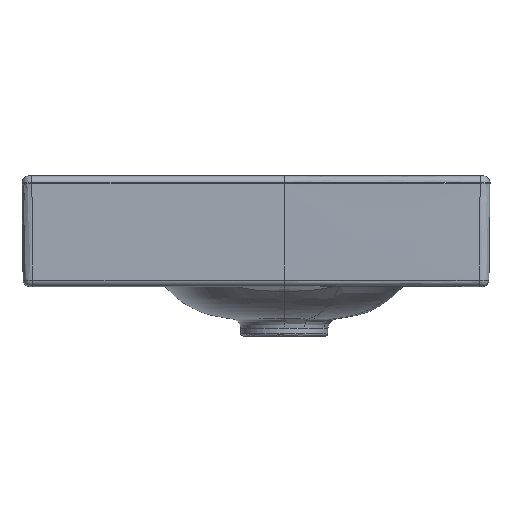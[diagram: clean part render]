
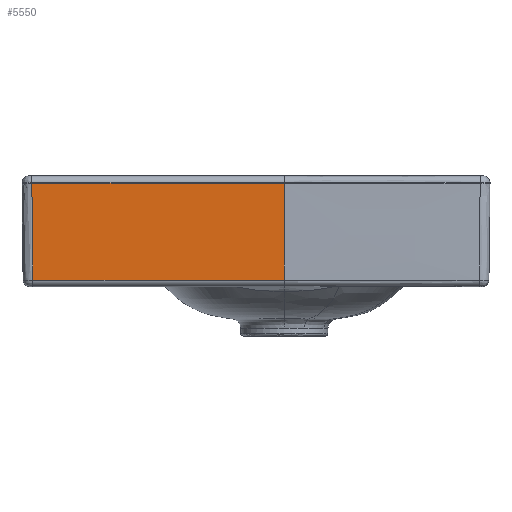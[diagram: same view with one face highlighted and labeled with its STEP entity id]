
A CAD part, front view. The second image highlights one B-rep face of the part: STEP entity #5550.
In plain terms, the highlighted free-form (B-spline) face has degree [3, 3] with [7, 7] control points.
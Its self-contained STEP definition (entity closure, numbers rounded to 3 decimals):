
#888=FACE_OUTER_BOUND('',#1234,.T.);
#1234=EDGE_LOOP('',(#4515,#4516,#4517,#4518,#4519));
#1471=LINE('',#41017,#1705);
#1472=LINE('',#41422,#1706);
#1705=VECTOR('',#6909,10.);
#1706=VECTOR('',#6912,10.);
#2000=B_SPLINE_CURVE_WITH_KNOTS('',3,(#39942,#39943,#39944,#39945),
 .UNSPECIFIED.,.F.,.F.,(4,4),(0.,1.),.UNSPECIFIED.);
#2007=B_SPLINE_CURVE_WITH_KNOTS('',3,(#41227,#41228,#41229,#41230,#41231,
#41232,#41233,#41234,#41235,#41236,#41237,#41238,#41239,#41240,#41241,#41242,
#41243,#41244,#41245,#41246,#41247,#41248,#41249,#41250,#41251,#41252,#41253,
#41254,#41255,#41256),.UNSPECIFIED.,.F.,.F.,(4,3,2,2,1,3,2,2,2,3,2,2,2,
4),(0.,0.198,0.352,0.409,
0.465,0.465,0.5,0.62,0.683,
0.733,0.851,0.866,0.954,
1.),.UNSPECIFIED.);
#2010=B_SPLINE_CURVE_WITH_KNOTS('',3,(#41415,#41416,#41417,#41418,#41419,
#41420,#41421),.UNSPECIFIED.,.F.,.F.,(4,1,1,1,4),(0.,0.198,
0.465,0.733,1.),.UNSPECIFIED.);
#2427=VERTEX_POINT('',#39888);
#2429=VERTEX_POINT('',#39941);
#2439=VERTEX_POINT('',#41016);
#2441=VERTEX_POINT('',#41226);
#2443=VERTEX_POINT('',#41414);
#3148=EDGE_CURVE('',#2427,#2429,#2000,.T.);
#3166=EDGE_CURVE('',#2429,#2439,#1471,.T.);
#3169=EDGE_CURVE('',#2439,#2441,#2007,.T.);
#3172=EDGE_CURVE('',#2427,#2443,#2010,.T.);
#3173=EDGE_CURVE('',#2443,#2441,#1472,.T.);
#4515=ORIENTED_EDGE('',*,*,#3166,.F.);
#4516=ORIENTED_EDGE('',*,*,#3148,.F.);
#4517=ORIENTED_EDGE('',*,*,#3172,.T.);
#4518=ORIENTED_EDGE('',*,*,#3173,.T.);
#4519=ORIENTED_EDGE('',*,*,#3169,.F.);
#4921=B_SPLINE_SURFACE_WITH_KNOTS('',3,3,((#41365,#41366,#41367,#41368,
#41369,#41370,#41371),(#41372,#41373,#41374,#41375,#41376,#41377,#41378),
(#41379,#41380,#41381,#41382,#41383,#41384,#41385),(#41386,#41387,#41388,
#41389,#41390,#41391,#41392),(#41393,#41394,#41395,#41396,#41397,#41398,
#41399),(#41400,#41401,#41402,#41403,#41404,#41405,#41406),(#41407,#41408,
#41409,#41410,#41411,#41412,#41413)),.UNSPECIFIED.,.F.,.F.,.F.,(4,1,1,1,
4),(4,3,4),(0.,0.267,0.535,0.802,1.),
(0.,0.01,1.),.UNSPECIFIED.);
#5550=ADVANCED_FACE('',(#888),#4921,.T.);
#6909=DIRECTION('',(-1.,0.,0.));
#6912=DIRECTION('',(-1.,0.,0.));
#39888=CARTESIAN_POINT('',(0.,-279.093,765.437));
#39941=CARTESIAN_POINT('',(-204.175,-279.093,765.437));
#39942=CARTESIAN_POINT('Ctrl Pts',(0.,-279.093,
765.437));
#39943=CARTESIAN_POINT('Ctrl Pts',(-68.058,-279.093,765.437));
#39944=CARTESIAN_POINT('Ctrl Pts',(-136.116,-279.093,765.437));
#39945=CARTESIAN_POINT('Ctrl Pts',(-204.175,-279.093,765.437));
#41016=CARTESIAN_POINT('',(-204.175,-279.093,765.437));
#41017=CARTESIAN_POINT('',(-204.175,-279.093,765.437));
#41226=CARTESIAN_POINT('',(-205.,-279.843,844.001));
#41227=CARTESIAN_POINT('Ctrl Pts',(-204.175,-279.093,
765.437));
#41228=CARTESIAN_POINT('Ctrl Pts',(-204.294,-279.181,
770.626));
#41229=CARTESIAN_POINT('Ctrl Pts',(-204.4,-279.263,775.814));
#41230=CARTESIAN_POINT('Ctrl Pts',(-204.492,-279.334,781.002));
#41231=CARTESIAN_POINT('Ctrl Pts',(-204.564,-279.389,
785.034));
#41232=CARTESIAN_POINT('Ctrl Pts',(-204.629,-279.438,789.067));
#41233=CARTESIAN_POINT('Ctrl Pts',(-204.706,-279.489,
794.592));
#41234=CARTESIAN_POINT('Ctrl Pts',(-204.726,-279.502,
796.085));
#41235=CARTESIAN_POINT('Ctrl Pts',(-204.764,-279.523,
799.042));
#41236=CARTESIAN_POINT('Ctrl Pts',(-204.782,-279.532,
800.516));
#41237=CARTESIAN_POINT('Ctrl Pts',(-204.798,-279.538,801.99));
#41238=CARTESIAN_POINT('Ctrl Pts',(-204.798,-279.539,
801.999));
#41239=CARTESIAN_POINT('Ctrl Pts',(-204.809,-279.543,
802.904));
#41240=CARTESIAN_POINT('Ctrl Pts',(-204.818,-279.546,
803.81));
#41241=CARTESIAN_POINT('Ctrl Pts',(-204.861,-279.559,
807.864));
#41242=CARTESIAN_POINT('Ctrl Pts',(-204.889,-279.563,
811.012));
#41243=CARTESIAN_POINT('Ctrl Pts',(-204.925,-279.568,
815.798));
#41244=CARTESIAN_POINT('Ctrl Pts',(-204.936,-279.57,
817.436));
#41245=CARTESIAN_POINT('Ctrl Pts',(-204.954,-279.575,
820.386));
#41246=CARTESIAN_POINT('Ctrl Pts',(-204.961,-279.578,
821.698));
#41247=CARTESIAN_POINT('Ctrl Pts',(-204.967,-279.583,
823.01));
#41248=CARTESIAN_POINT('Ctrl Pts',(-204.982,-279.593,
826.11));
#41249=CARTESIAN_POINT('Ctrl Pts',(-204.993,-279.609,
829.21));
#41250=CARTESIAN_POINT('Ctrl Pts',(-204.999,-279.644,
832.707));
#41251=CARTESIAN_POINT('Ctrl Pts',(-205.,-279.648,
833.103));
#41252=CARTESIAN_POINT('Ctrl Pts',(-205.004,-279.679,
835.798));
#41253=CARTESIAN_POINT('Ctrl Pts',(-205.005,-279.713,
838.097));
#41254=CARTESIAN_POINT('Ctrl Pts',(-205.003,-279.784,
841.597));
#41255=CARTESIAN_POINT('Ctrl Pts',(-205.002,-279.812,
842.799));
#41256=CARTESIAN_POINT('Ctrl Pts',(-205.,-279.843,
844.001));
#41365=CARTESIAN_POINT('Ctrl Pts',(-207.058,-279.843,844.001));
#41366=CARTESIAN_POINT('Ctrl Pts',(-206.375,-279.843,
844.001));
#41367=CARTESIAN_POINT('Ctrl Pts',(-205.692,-279.843,
844.001));
#41368=CARTESIAN_POINT('Ctrl Pts',(-205.008,-279.843,
844.001));
#41369=CARTESIAN_POINT('Ctrl Pts',(-136.672,-279.843,
844.001));
#41370=CARTESIAN_POINT('Ctrl Pts',(-68.336,-279.843,
844.001));
#41371=CARTESIAN_POINT('Ctrl Pts',(0.,-279.843,
844.001));
#41372=CARTESIAN_POINT('Ctrl Pts',(-207.058,-279.661,
837.014));
#41373=CARTESIAN_POINT('Ctrl Pts',(-206.375,-279.661,
837.014));
#41374=CARTESIAN_POINT('Ctrl Pts',(-205.691,-279.661,
837.014));
#41375=CARTESIAN_POINT('Ctrl Pts',(-205.008,-279.661,
837.013));
#41376=CARTESIAN_POINT('Ctrl Pts',(-136.671,-279.671,
836.988));
#41377=CARTESIAN_POINT('Ctrl Pts',(-68.336,-279.67,
836.974));
#41378=CARTESIAN_POINT('Ctrl Pts',(0.,-279.659,
836.971));
#41379=CARTESIAN_POINT('Ctrl Pts',(-207.058,-279.549,
823.014));
#41380=CARTESIAN_POINT('Ctrl Pts',(-206.375,-279.549,
823.013));
#41381=CARTESIAN_POINT('Ctrl Pts',(-205.691,-279.549,
823.013));
#41382=CARTESIAN_POINT('Ctrl Pts',(-205.008,-279.549,
823.013));
#41383=CARTESIAN_POINT('Ctrl Pts',(-136.669,-279.56,
822.984));
#41384=CARTESIAN_POINT('Ctrl Pts',(-68.336,-279.559,
822.968));
#41385=CARTESIAN_POINT('Ctrl Pts',(0.,-279.547,
822.966));
#41386=CARTESIAN_POINT('Ctrl Pts',(-207.058,-279.582,
801.994));
#41387=CARTESIAN_POINT('Ctrl Pts',(-206.374,-279.582,
801.994));
#41388=CARTESIAN_POINT('Ctrl Pts',(-205.691,-279.582,801.994));
#41389=CARTESIAN_POINT('Ctrl Pts',(-205.008,-279.582,
801.994));
#41390=CARTESIAN_POINT('Ctrl Pts',(-136.666,-279.578,
802.003));
#41391=CARTESIAN_POINT('Ctrl Pts',(-68.335,-279.579,
802.009));
#41392=CARTESIAN_POINT('Ctrl Pts',(0.,-279.583,
802.009));
#41393=CARTESIAN_POINT('Ctrl Pts',(-207.058,-279.374,
782.813));
#41394=CARTESIAN_POINT('Ctrl Pts',(-206.374,-279.374,
782.813));
#41395=CARTESIAN_POINT('Ctrl Pts',(-205.691,-279.374,
782.813));
#41396=CARTESIAN_POINT('Ctrl Pts',(-205.007,-279.374,
782.813));
#41397=CARTESIAN_POINT('Ctrl Pts',(-136.663,-279.371,
782.82));
#41398=CARTESIAN_POINT('Ctrl Pts',(-68.334,-279.371,
782.823));
#41399=CARTESIAN_POINT('Ctrl Pts',(0.,-279.374,
782.824));
#41400=CARTESIAN_POINT('Ctrl Pts',(-207.057,-279.181,
770.626));
#41401=CARTESIAN_POINT('Ctrl Pts',(-206.374,-279.181,
770.626));
#41402=CARTESIAN_POINT('Ctrl Pts',(-205.69,-279.181,
770.626));
#41403=CARTESIAN_POINT('Ctrl Pts',(-205.007,-279.181,
770.626));
#41404=CARTESIAN_POINT('Ctrl Pts',(-136.662,-279.18,
770.628));
#41405=CARTESIAN_POINT('Ctrl Pts',(-68.334,-279.18,
770.629));
#41406=CARTESIAN_POINT('Ctrl Pts',(0.,-279.181,
770.629));
#41407=CARTESIAN_POINT('Ctrl Pts',(-207.057,-279.093,
765.436));
#41408=CARTESIAN_POINT('Ctrl Pts',(-206.374,-279.093,
765.436));
#41409=CARTESIAN_POINT('Ctrl Pts',(-205.69,-279.093,765.436));
#41410=CARTESIAN_POINT('Ctrl Pts',(-205.007,-279.093,
765.436));
#41411=CARTESIAN_POINT('Ctrl Pts',(-136.661,-279.093,
765.437));
#41412=CARTESIAN_POINT('Ctrl Pts',(-68.334,-279.093,
765.437));
#41413=CARTESIAN_POINT('Ctrl Pts',(0.,-279.093,
765.437));
#41414=CARTESIAN_POINT('',(0.,-279.843,844.001));
#41415=CARTESIAN_POINT('Ctrl Pts',(0.,-279.093,
765.437));
#41416=CARTESIAN_POINT('Ctrl Pts',(0.,-279.181,
770.629));
#41417=CARTESIAN_POINT('Ctrl Pts',(0.,-279.374,
782.824));
#41418=CARTESIAN_POINT('Ctrl Pts',(0.,-279.583,
802.009));
#41419=CARTESIAN_POINT('Ctrl Pts',(0.,-279.547,
822.966));
#41420=CARTESIAN_POINT('Ctrl Pts',(0.,-279.659,
836.971));
#41421=CARTESIAN_POINT('Ctrl Pts',(0.,-279.843,
844.001));
#41422=CARTESIAN_POINT('',(0.,-279.843,844.001));
